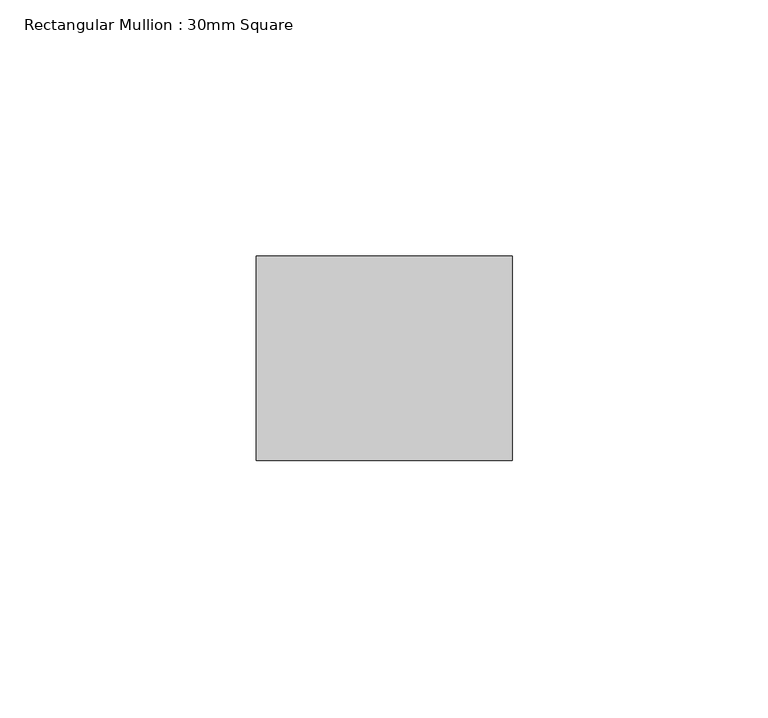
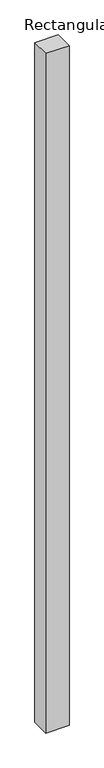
"""IFC4 building model written with IfcOpenShell, lengths in millimetres: member geometry, Rectangular Mullion : 30mm Square."""

import ifcopenshell
import ifcopenshell.guid

model = None  # the IFC model being written
_history = None  # IfcOwnerHistory: only IFC2X3 demands one
_inside = {}  # id of a spatial element -> (the spatial element, [elements in it])
_under = {}  # id of a project, library or spatial element -> (it, [spatial elements below it])
_declared = {}  # id of a project -> (the project, [libraries it declares])
_typed = {}  # id of a type object -> (the type object, [elements of that type])
_made_of = {}  # id of a material, layer set ... -> (it, [elements and type objects made of it])


def new_model(schema):
    """Start an empty IFC model of exactly this schema.

    Asked for "IFC4X3", IfcOpenShell would pick the latest addendum, in which some entities
    have other attributes; the version numbers below select the first issue.
    IFC2X3 requires an IfcOwnerHistory on every rooted entity: one is made here for all.
    """
    global model, _history
    if schema == "IFC4X3":
        model = ifcopenshell.file(schema_version=(4, 3, 0, 0))
    else:
        model = ifcopenshell.file(schema=schema)
    _inside.clear()
    _under.clear()
    _declared.clear()
    _typed.clear()
    _made_of.clear()
    _history = None
    if model.schema == "IFC2X3":
        org = make("IfcOrganization", Name="unknown")
        user = make(
            "IfcPersonAndOrganization",
            ThePerson=make("IfcPerson", FamilyName="unknown"),
            TheOrganization=org,
        )
        app = make(
            "IfcApplication",
            ApplicationDeveloper=org,
            Version="unknown",
            ApplicationFullName="unknown",
            ApplicationIdentifier="unknown",
        )
        _history = make(
            "IfcOwnerHistory",
            OwningUser=user,
            OwningApplication=app,
            ChangeAction="ADDED",
            CreationDate=0,
        )
    return model


def make(cls, **values):
    """One entity of the class cls with the attributes given. An attribute that is None is left unset."""
    return model.create_entity(
        cls, **{name: value for name, value in values.items() if value is not None}
    )


def rooted(cls, **values):
    """An entity with a GlobalId (a new one), such as an element, a storey or a relation."""
    return make(cls, GlobalId=ifcopenshell.guid.new(), OwnerHistory=_history, **values)


def si_unit(unit_type, name, prefix=None):
    """IfcSIUnit, for example si_unit("LENGTHUNIT", "METRE", prefix="MILLI")."""
    return make("IfcSIUnit", UnitType=unit_type, Prefix=prefix, Name=name)


def assignment(units):
    """IfcUnitAssignment: the units of a project."""
    return None if units is None else make("IfcUnitAssignment", Units=units)


def point(xyz):
    """IfcCartesianPoint."""
    return None if xyz is None else make("IfcCartesianPoint", Coordinates=xyz)


def direction(xyz):
    """IfcDirection."""
    return None if xyz is None else make("IfcDirection", DirectionRatios=xyz)


def frame(location, z_axis=None, x_axis=None):
    """IfcAxis2Placement3D, a coordinate frame: its origin and axes. An axis left out is left unset."""
    return make(
        "IfcAxis2Placement3D",
        Location=point(location),
        Axis=direction(z_axis),
        RefDirection=direction(x_axis),
    )


def origin():
    """The frame at (0, 0, 0) with its axes left unset."""
    return frame((0.0, 0.0, 0.0))


def place(relative_to, where):
    """IfcLocalPlacement: puts the frame where relative to a parent placement (None: the world)."""
    return make(
        "IfcLocalPlacement", PlacementRelTo=relative_to, RelativePlacement=where
    )


def context(
    kind, dimensions, precision=None, world=None, true_north=None, identifier=None
):
    """IfcGeometricRepresentationContext, for example the 3D "Model" context."""
    return make(
        "IfcGeometricRepresentationContext",
        ContextIdentifier=identifier,
        ContextType=kind,
        CoordinateSpaceDimension=dimensions,
        Precision=precision,
        WorldCoordinateSystem=world,
        TrueNorth=true_north,
    )


def project(units=None, contexts=None):
    """IfcProject with its units and contexts."""
    return rooted(
        "IfcProject",
        Name="project",
        RepresentationContexts=contexts,
        UnitsInContext=assignment(units),
    )


def spatial(cls, under=None, at=None, **own):
    """A site, building, storey or space (cls), placed at a placement, below another one or the project."""
    s = rooted(cls, ObjectPlacement=at, **own)
    if under is not None:
        _under.setdefault(under.id(), (under, []))[1].append(s)
    return s


def polyline(points):
    """IfcPolyline through the points."""
    return make("IfcPolyline", Points=[point(p) for p in points])


def outline(outer, holes=None, kind="AREA"):
    """IfcArbitraryClosedProfileDef: a profile drawn as a closed curve; with holes, ...WithVoids."""
    if holes is None:
        return make("IfcArbitraryClosedProfileDef", ProfileType=kind, OuterCurve=outer)
    return make(
        "IfcArbitraryProfileDefWithVoids",
        ProfileType=kind,
        OuterCurve=outer,
        InnerCurves=holes,
    )


def extrude(swept, where, along, depth):
    """IfcExtrudedAreaSolid: the profile swept, set in the frame where, extruded along a direction by depth."""
    return make(
        "IfcExtrudedAreaSolid",
        SweptArea=swept,
        Position=where,
        ExtrudedDirection=direction(along),
        Depth=depth,
    )


def shape(context_of_items, identifier, shape_type, items):
    """IfcShapeRepresentation: the items that make up one representation, for example the "Body"."""
    return make(
        "IfcShapeRepresentation",
        ContextOfItems=context_of_items,
        RepresentationIdentifier=identifier,
        RepresentationType=shape_type,
        Items=items,
    )


def source(mapping_origin, context_of_items, identifier, shape_type, items):
    """IfcRepresentationMap: a shape defined once, which mapped items show again and again."""
    return make(
        "IfcRepresentationMap",
        MappingOrigin=mapping_origin,
        MappedRepresentation=shape(context_of_items, identifier, shape_type, items),
    )


def transform(
    local_origin,
    x_axis=None,
    y_axis=None,
    z_axis=None,
    scale=None,
    scale2=None,
    scale3=None,
    uniform=True,
):
    """IfcCartesianTransformationOperator3D, or its non-uniform kind. x_axis, y_axis, z_axis: its Axis1, 2, 3."""
    if uniform:
        return make(
            "IfcCartesianTransformationOperator3D",
            Axis1=direction(x_axis),
            Axis2=direction(y_axis),
            LocalOrigin=point(local_origin),
            Scale=scale,
            Axis3=direction(z_axis),
        )
    return make(
        "IfcCartesianTransformationOperator3DnonUniform",
        Axis1=direction(x_axis),
        Axis2=direction(y_axis),
        LocalOrigin=point(local_origin),
        Scale=scale,
        Axis3=direction(z_axis),
        Scale2=scale2,
        Scale3=scale3,
    )


def mapped(mapping_source, mapping_target):
    """IfcMappedItem: shows the shape of a source again, moved by a transform."""
    return make(
        "IfcMappedItem", MappingSource=mapping_source, MappingTarget=mapping_target
    )


def made_of(thing, what):
    """Note that an element or type object is made of a material, layer set ...; save() writes the relation."""
    if what is not None:
        _made_of.setdefault(what.id(), (what, []))[1].append(thing)
    return thing


def element(
    cls,
    number,
    at=None,
    inside=None,
    cuts=None,
    type_object=None,
    material=None,
    context=None,
    identifier="Body",
    shape_type=None,
    held_by="IfcProductDefinitionShape",
    body=None,
    shapes=None,
    **own,
):
    """One element of the class cls, such as IfcWall. Its Tag is "e" and its number.

    at: its placement. inside: the storey or other place that contains it. cuts: it is an
    opening in that element (IfcRelVoidsElement). A single representation is given by context,
    identifier, shape_type and body (its items); several are given by shapes. held_by: the class
    of the entity that holds the representations. save() writes the other relations.
    """
    e = rooted(cls, Tag="e%d" % number, ObjectPlacement=at, **own)
    if body is not None:
        shapes = [shape(context, identifier, shape_type, body)]
    if shapes is not None:
        e.Representation = make(held_by, Representations=shapes)
    if inside is not None:
        _inside.setdefault(inside.id(), (inside, []))[1].append(e)
    if cuts is not None:
        rooted(
            "IfcRelVoidsElement", RelatingBuildingElement=cuts, RelatedOpeningElement=e
        )
    if type_object is not None:
        _typed.setdefault(type_object.id(), (type_object, []))[1].append(e)
    return made_of(e, material)


def aggregate(whole, parts):
    """IfcRelAggregates: a whole, such as a stair, and the parts it consists of."""
    return rooted("IfcRelAggregates", RelatingObject=whole, RelatedObjects=parts)


def save(model, path):
    """Write the relations noted so far, then the file.

    IfcRelAggregates (storeys below a building ...), IfcRelContainedInSpatialStructure (elements
    in a storey), IfcRelDefinesByType, IfcRelAssociatesMaterial and IfcRelDeclares: one each for
    every whole, place, type object, material and project.
    """
    for whole, parts in _under.values():
        aggregate(whole, parts)
    for where, things in _inside.values():
        rooted(
            "IfcRelContainedInSpatialStructure",
            RelatedElements=things,
            RelatingStructure=where,
        )
    for kind, things in _typed.values():
        rooted("IfcRelDefinesByType", RelatedObjects=things, RelatingType=kind)
    for what, things in _made_of.values():
        rooted("IfcRelAssociatesMaterial", RelatedObjects=things, RelatingMaterial=what)
    for by, libraries in _declared.values():
        rooted("IfcRelDeclares", RelatingContext=by, RelatedDefinitions=libraries)
    model.write(path)


def rectangular_mullion_30mm_square_fa95bdf8(model_context):
    return source(origin(), model_context, "Body", "SweptSolid", [
        extrude(outline(polyline([(25.0, 20.0), (25.0, -20.0), (-25.0, -20.0), (-25.0, 20.0), (25.0, 20.0)])), frame((0.0, 0.0, -1540.0), z_axis=(0.0, 0.0, 1.0), x_axis=(1.0, 0.0, 0.0)), (0.0, 0.0, 1.0), 1540.0),
    ])


if __name__ == "__main__":
    model = new_model("IFC4")
    model_context = context("Model", 3, world=origin())
    ifc_project = project(units=[si_unit("LENGTHUNIT", "METRE", prefix="MILLI")], contexts=[model_context])
    site = spatial("IfcSite", under=ifc_project)
    building = spatial("IfcBuilding", under=site)
    placement = place(None, origin())
    rectangular_mullion_30mm_square_shape = rectangular_mullion_30mm_square_fa95bdf8(model_context)
    element("IfcMember", 1, ObjectType="Rectangular Mullion : 30mm Square", at=placement, inside=building, context=model_context, shape_type="MappedRepresentation", body=[
        mapped(rectangular_mullion_30mm_square_shape, transform((0.0, 0.0, 0.0), x_axis=(1.0, 0.0, 0.0), y_axis=(0.0, 1.0, 0.0), z_axis=(0.0, 0.0, 1.0))),
    ])
    save(model, "model.ifc")
